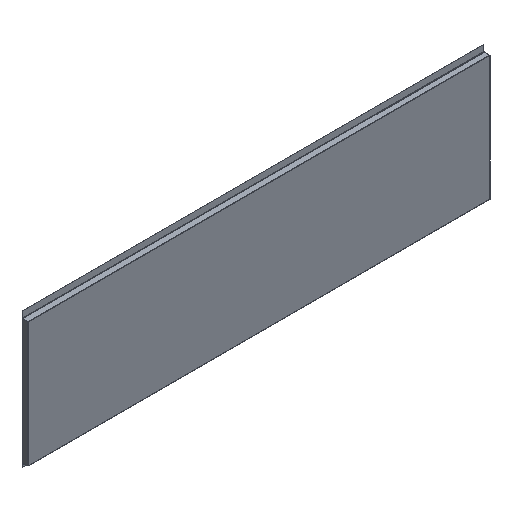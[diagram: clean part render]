
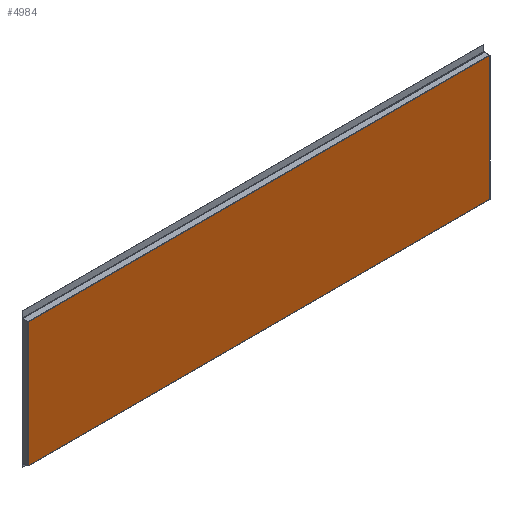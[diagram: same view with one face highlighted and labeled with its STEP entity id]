
A CAD part, isometric view. The second image highlights one B-rep face of the part: STEP entity #4984.
In plain terms, the highlighted planar face has unit normal (0, -1, 0).
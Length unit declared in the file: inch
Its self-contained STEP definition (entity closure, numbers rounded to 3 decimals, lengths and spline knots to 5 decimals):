
#217=PLANE('',#5463);
#449=FACE_OUTER_BOUND('',#789,.T.);
#789=EDGE_LOOP('',(#4462,#4463,#4464,#4465,#4466,#4467,#4468,#4469));
#1480=LINE('',#8232,#1968);
#1481=LINE('',#8235,#1969);
#1482=LINE('',#8237,#1970);
#1483=LINE('',#8239,#1971);
#1484=LINE('',#8241,#1972);
#1485=LINE('',#8242,#1973);
#1486=LINE('',#8244,#1974);
#1487=LINE('',#8245,#1975);
#1968=VECTOR('',#6782,39.37008);
#1969=VECTOR('',#6785,39.37008);
#1970=VECTOR('',#6786,39.37008);
#1971=VECTOR('',#6787,39.37008);
#1972=VECTOR('',#6788,39.37008);
#1973=VECTOR('',#6789,39.37008);
#1974=VECTOR('',#6790,39.37008);
#1975=VECTOR('',#6791,39.37008);
#2419=VERTEX_POINT('',#8113);
#2445=VERTEX_POINT('',#8187);
#2461=VERTEX_POINT('',#8230);
#2462=VERTEX_POINT('',#8234);
#2463=VERTEX_POINT('',#8236);
#2464=VERTEX_POINT('',#8238);
#2465=VERTEX_POINT('',#8240);
#2466=VERTEX_POINT('',#8243);
#3142=EDGE_CURVE('',#2445,#2461,#1480,.T.);
#3143=EDGE_CURVE('',#2462,#2419,#1481,.T.);
#3144=EDGE_CURVE('',#2463,#2419,#1482,.T.);
#3145=EDGE_CURVE('',#2463,#2464,#1483,.T.);
#3146=EDGE_CURVE('',#2465,#2464,#1484,.T.);
#3147=EDGE_CURVE('',#2445,#2465,#1485,.T.);
#3148=EDGE_CURVE('',#2466,#2461,#1486,.T.);
#3149=EDGE_CURVE('',#2466,#2462,#1487,.T.);
#4462=ORIENTED_EDGE('',*,*,#3143,.T.);
#4463=ORIENTED_EDGE('',*,*,#3144,.F.);
#4464=ORIENTED_EDGE('',*,*,#3145,.T.);
#4465=ORIENTED_EDGE('',*,*,#3146,.F.);
#4466=ORIENTED_EDGE('',*,*,#3147,.F.);
#4467=ORIENTED_EDGE('',*,*,#3142,.T.);
#4468=ORIENTED_EDGE('',*,*,#3148,.F.);
#4469=ORIENTED_EDGE('',*,*,#3149,.T.);
#4984=ADVANCED_FACE('',(#449),#217,.T.);
#5463=AXIS2_PLACEMENT_3D('',#8233,#6783,#6784);
#6782=DIRECTION('',(-1.,0.,0.));
#6783=DIRECTION('center_axis',(0.,-1.,0.));
#6784=DIRECTION('ref_axis',(0.,0.,-1.));
#6785=DIRECTION('',(1.,0.,0.));
#6786=DIRECTION('',(-1.,0.,0.));
#6787=DIRECTION('',(1.,0.,0.));
#6788=DIRECTION('',(0.,0.,-1.));
#6789=DIRECTION('',(1.,0.,0.));
#6790=DIRECTION('',(1.,0.,0.));
#6791=DIRECTION('',(0.,0.,-1.));
#8113=CARTESIAN_POINT('',(291.09375,7.02361,78.7964));
#8187=CARTESIAN_POINT('',(362.96875,7.02361,98.1804));
#8230=CARTESIAN_POINT('',(291.09375,7.02361,98.1804));
#8232=CARTESIAN_POINT('',(362.96875,7.02361,98.1804));
#8233=CARTESIAN_POINT('Origin',(362.96875,7.02361,78.7964));
#8234=CARTESIAN_POINT('',(291.08225,7.02361,78.7964));
#8235=CARTESIAN_POINT('',(291.08225,7.02361,78.7964));
#8236=CARTESIAN_POINT('',(362.96875,7.02361,78.7964));
#8237=CARTESIAN_POINT('',(362.96875,7.02361,78.7964));
#8238=CARTESIAN_POINT('',(362.98025,7.02361,78.7964));
#8239=CARTESIAN_POINT('',(362.98025,7.02361,78.7964));
#8240=CARTESIAN_POINT('',(362.98025,7.02361,98.1804));
#8241=CARTESIAN_POINT('',(362.98025,7.02361,98.1804));
#8242=CARTESIAN_POINT('',(362.98025,7.02361,98.1804));
#8243=CARTESIAN_POINT('',(291.08225,7.02361,98.1804));
#8244=CARTESIAN_POINT('',(291.08225,7.02361,98.1804));
#8245=CARTESIAN_POINT('',(291.08225,7.02361,98.1804));
